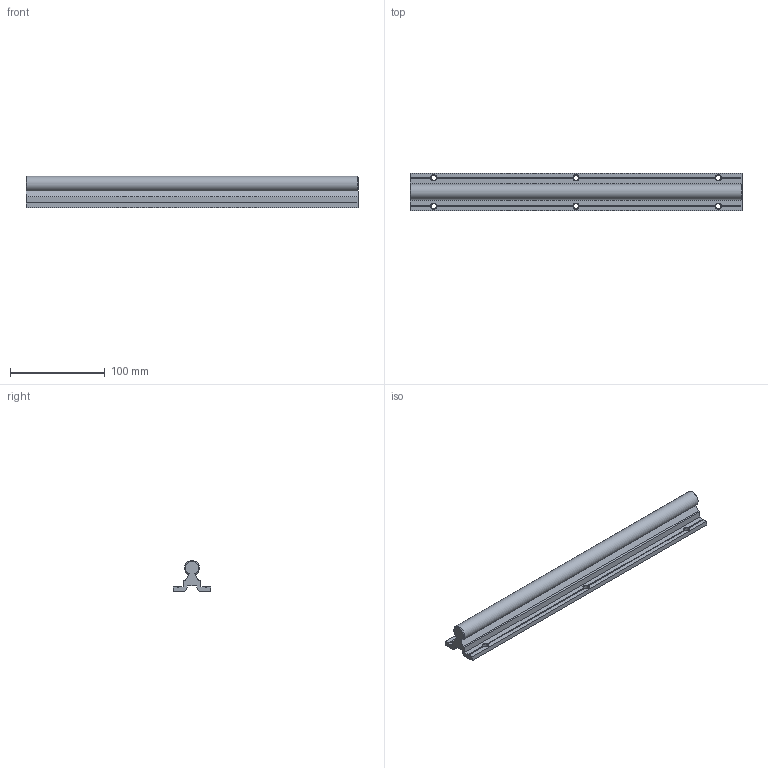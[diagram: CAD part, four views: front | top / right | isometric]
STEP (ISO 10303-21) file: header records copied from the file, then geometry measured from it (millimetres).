
FILE_DESCRIPTION(/* description */ (''),/* implementation_level */ '2;1');
FILE_NAME(/* name */ 'C:\Users\David\Desktop\stepFiles\Profilfuehrung\LFS16x350.stp',/* time_stamp */ '2018-06-24T15:18:09+02:00',/* author */ ('Buskamp'),/* organization */ (''),/* preprocessor_version */ 'ST-DEVELOPER v17',/* originating_system */ 'Autodesk Inventor 2019',/* authorisation */ '');
FILE_SCHEMA (('AUTOMOTIVE_DESIGN { 1 0 10303 214 3 1 1 }'));
Length unit declared in the file: millimetre
Products named in the file (1): Linearführung D16xvariabel
Bounding box: 350 x 40 x 32.97 mm (x, y, z)
Volume: 178548 mm3; surface area: 55718 mm2
Topology: 1 solids, 1 shells, 64 faces, 186 edges, 118 vertices
Faces by surface type: plane 43, cone 14, cylinder 7
Full cylindrical faces by diameter (mm): 5.5 x6
Entity records: 2139 total; most frequent: CARTESIAN_POINT 425, ORIENTED_EDGE 372, DIRECTION 346, EDGE_CURVE 186, AXIS2_PLACEMENT_3D 123, VERTEX_POINT 118, LINE 100, VECTOR 100
